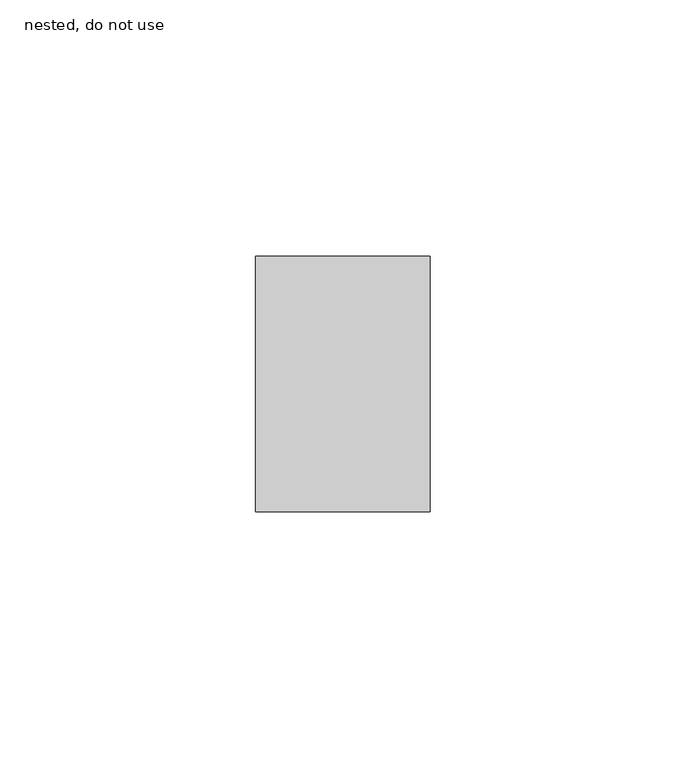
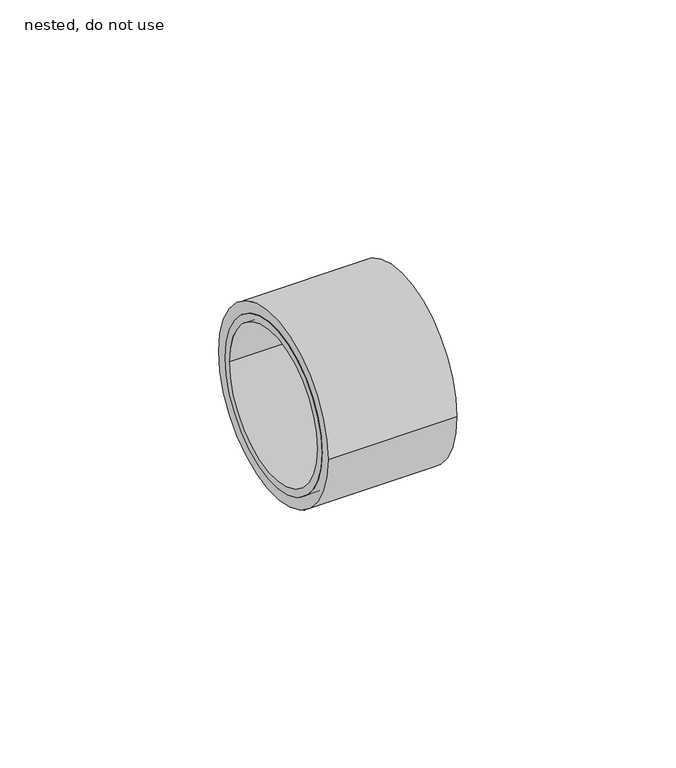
"""IFC4 building model written with IfcOpenShell, lengths in millimetres: pipe fitting geometry, NLRS_52_PIF_UN_Vacurain Flex verloop LV_SH_Dyka : nested, do not use."""

from ifc_helpers import new_model, si_unit, point, frame, origin, origin_2d, place, context, project, spatial, polyline, circle_curve, trimmed, segment, composite_curve, outline, extrude, source, transform, mapped, element, save
from ifc_brep_helpers import plane_surface, cylinder_surface, revolved_surface, advanced_brep


def nested_do_not_use_5249c4b3(model_context):
    return source(origin(), model_context, "Body", "SolidModel", [
        extrude(outline(composite_curve([segment(trimmed(circle_curve(origin_2d(), 22.0), [point((-22.0, 0.0))], [point((22.0, 0.0))], False, "CARTESIAN"), True, "CONTINUOUS"), segment(trimmed(circle_curve(origin_2d(), 22.0), [point((22.0, 0.0))], [point((-22.0, 0.0))], False, "CARTESIAN"), True, "CONTINUOUS")], self_intersect=False), holes=[composite_curve([segment(trimmed(circle_curve(origin_2d(), 20.0), [point((-20.0, 0.0))], [point((20.0, 0.0))], True, "CARTESIAN"), True, "CONTINUOUS"), segment(trimmed(circle_curve(origin_2d(), 20.0), [point((20.0, 0.0))], [point((-20.0, 0.0))], True, "CARTESIAN"), True, "CONTINUOUS")], self_intersect=False)]), frame((-19.0, 0.0, 0.0), z_axis=(1.0, 0.0, 0.0), x_axis=(0.0, 1.0, 0.0)), (0.0, 0.0, 1.0), 27.0),
        advanced_brep(
        [(-19.0, -25.0, 0.0), (-19.0, 25.0, 0.0), (-19.0, -20.0, 0.0), (-19.0, 20.0, 0.0), (15.0, -25.0, 0.0), (15.0, 25.0, 0.0), (8.0, -20.0, 0.0), (8.0, 20.0, 0.0)],
        [
            (0, 1, circle_curve(frame((-19.0, 0.0, 0.0), z_axis=(-1.0, 0.0, 0.0), x_axis=(0.0, 1.0, 0.0)), 25.0)),
            (1, 0, circle_curve(frame((-19.0, 0.0, 0.0), z_axis=(-1.0, 0.0, 0.0), x_axis=(0.0, 1.0, 0.0)), 25.0)),
            (2, 3, circle_curve(frame((-19.0, 0.0, 0.0), z_axis=(1.0, 0.0, 0.0), x_axis=(0.0, 1.0, 0.0)), 20.0)),
            (3, 2, circle_curve(frame((-19.0, 0.0, 0.0), z_axis=(1.0, 0.0, 0.0), x_axis=(0.0, 1.0, 0.0)), 20.0)),
            (4, 5, circle_curve(frame((15.0, 0.0, 0.0), z_axis=(1.0, 0.0, 0.0), x_axis=(0.0, 1.0, 0.0)), 25.0)),
            (5, 4, circle_curve(frame((15.0, 0.0, 0.0), z_axis=(1.0, 0.0, 0.0), x_axis=(0.0, 1.0, 0.0)), 25.0)),
            (1, 5),
            (4, 0),
            (6, 7, circle_curve(frame((8.0, 0.0, 0.0), z_axis=(-1.0, 0.0, 0.0), x_axis=(0.0, 1.0, 0.0)), 20.0)),
            (7, 6, circle_curve(frame((8.0, 0.0, 0.0), z_axis=(-1.0, 0.0, 0.0), x_axis=(0.0, 1.0, 0.0)), 20.0)),
            (7, 3),
            (2, 6),
        ],
        [
            plane_surface(frame((-19.0, 25.0, 0.0), z_axis=(-1.0, 0.0, 0.0), x_axis=(0.0, 0.0, -1.0))),
            plane_surface(frame((15.0, 25.0, 0.0), z_axis=(1.0, 0.0, 0.0), x_axis=(0.0, 0.0, 1.0))),
            cylinder_surface(frame((-19.0, 0.0, 0.0), z_axis=(1.0, 0.0, 0.0), x_axis=(0.0, 1.0, 0.0)), 25.0),
            plane_surface(frame((8.0, 20.0, 0.0), z_axis=(-1.0, 0.0, 0.0), x_axis=(0.0, 0.0, 1.0))),
            revolved_surface(polyline([(8.0, 20.0, 0.0), (-19.0, 20.0, 0.0)]), (-19.0, 0.0, 0.0), (1.0, 0.0, 0.0)),
        ],
        [
            (0, [[1, 2], [3, 4]]),
            (1, [[5, 6]]),
            (2, [[-2, 7, -5, 8]]),
            (2, [[-1, -8, -6, -7]]),
            (3, [[9, 10]]),
            (4, [[-10, 11, -3, 12]]),
            (4, [[-9, -12, -4, -11]]),
        ],
    ),
    ])


if __name__ == "__main__":
    model = new_model("IFC4")
    model_context = context("Model", 3, world=origin())
    ifc_project = project(units=[si_unit("LENGTHUNIT", "METRE", prefix="MILLI")], contexts=[model_context])
    site = spatial("IfcSite", under=ifc_project)
    building = spatial("IfcBuilding", under=site)
    placement = place(None, origin())
    nested_do_not_use_shape = nested_do_not_use_5249c4b3(model_context)
    element("IfcPipeFitting", 1, ObjectType="NLRS_52_PIF_UN_Vacurain Flex verloop LV_SH_Dyka : nested, do not use", at=placement, inside=building, context=model_context, shape_type="MappedRepresentation", body=[
        mapped(nested_do_not_use_shape, transform((0.0, 0.0, 0.0), x_axis=(1.0, 0.0, 0.0), y_axis=(0.0, 1.0, 0.0), z_axis=(0.0, 0.0, 1.0))),
    ])
    save(model, "model.ifc")
